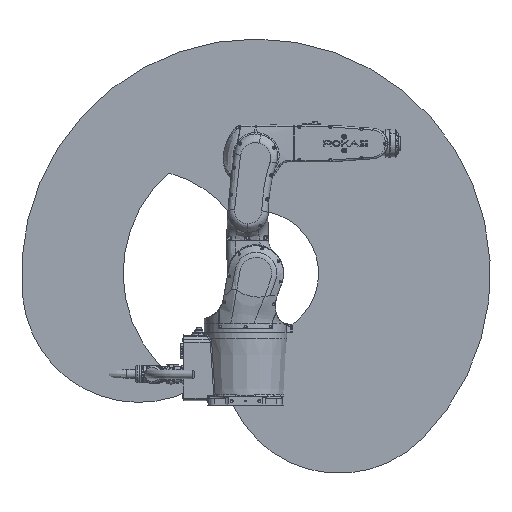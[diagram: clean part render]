
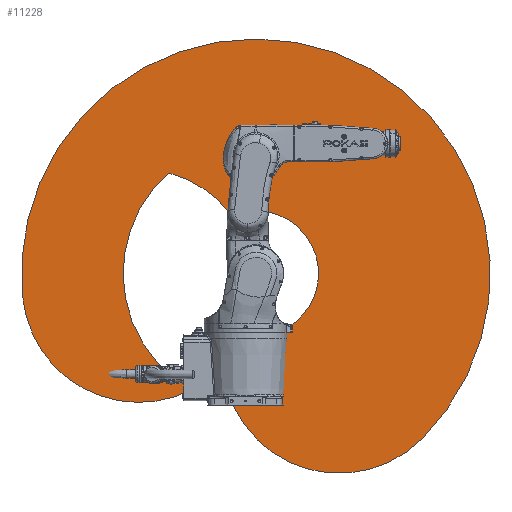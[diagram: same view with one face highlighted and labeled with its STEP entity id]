
A CAD part, front view. The second image highlights one B-rep face of the part: STEP entity #11228.
In plain terms, the highlighted planar face has unit normal (0, -1, 0).
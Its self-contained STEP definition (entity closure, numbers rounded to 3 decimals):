
#11228=ADVANCED_FACE('',(#15820),#12557,.T.);
#12557=PLANE('',#65906);
#15820=FACE_OUTER_BOUND('',#20251,.T.);
#20251=EDGE_LOOP('',(#46188,#46189,#46190,#46191,#46192,#46193));
#29332=CIRCLE('',#65900,180.697);
#29333=CIRCLE('',#65901,336.823);
#29334=CIRCLE('',#65902,676.823);
#29335=CIRCLE('',#65903,336.823);
#29336=CIRCLE('',#65904,383.538);
#29337=CIRCLE('',#65905,336.823);
#46188=ORIENTED_EDGE('',*,*,#59909,.T.);
#46189=ORIENTED_EDGE('',*,*,#59910,.T.);
#46190=ORIENTED_EDGE('',*,*,#59911,.T.);
#46191=ORIENTED_EDGE('',*,*,#59912,.T.);
#46192=ORIENTED_EDGE('',*,*,#59913,.T.);
#46193=ORIENTED_EDGE('',*,*,#59914,.T.);
#51478=VERTEX_POINT('',#149090);
#51479=VERTEX_POINT('',#149091);
#51480=VERTEX_POINT('',#149093);
#51481=VERTEX_POINT('',#149095);
#51482=VERTEX_POINT('',#149097);
#51483=VERTEX_POINT('',#149099);
#59909=EDGE_CURVE('',#51478,#51479,#29332,.T.);
#59910=EDGE_CURVE('',#51479,#51480,#29333,.T.);
#59911=EDGE_CURVE('',#51480,#51481,#29334,.T.);
#59912=EDGE_CURVE('',#51481,#51482,#29335,.T.);
#59913=EDGE_CURVE('',#51482,#51483,#29336,.T.);
#59914=EDGE_CURVE('',#51483,#51478,#29337,.T.);
#65900=AXIS2_PLACEMENT_3D('',#149089,#80890,#80891);
#65901=AXIS2_PLACEMENT_3D('',#149092,#80892,#80893);
#65902=AXIS2_PLACEMENT_3D('',#149094,#80894,#80895);
#65903=AXIS2_PLACEMENT_3D('',#149096,#80896,#80897);
#65904=AXIS2_PLACEMENT_3D('',#149098,#80898,#80899);
#65905=AXIS2_PLACEMENT_3D('',#149100,#80900,#80901);
#65906=AXIS2_PLACEMENT_3D('',#149101,#80902,#80903);
#80890=DIRECTION('',(0.,1.,0.));
#80891=DIRECTION('',(1.,0.,0.));
#80892=DIRECTION('',(0.,-1.,0.));
#80893=DIRECTION('',(1.,0.,0.));
#80894=DIRECTION('',(0.,-1.,0.));
#80895=DIRECTION('',(1.,0.,0.));
#80896=DIRECTION('',(0.,-1.,0.));
#80897=DIRECTION('',(1.,0.,0.));
#80898=DIRECTION('',(0.,1.,0.));
#80899=DIRECTION('',(1.,0.,0.));
#80900=DIRECTION('',(0.,1.,0.));
#80901=DIRECTION('',(1.,0.,0.));
#80902=DIRECTION('',(0.,-1.,0.));
#80903=DIRECTION('',(0.,0.,-1.));
#149089=CARTESIAN_POINT('',(6527.959,2056.777,0.));
#149090=CARTESIAN_POINT('',(6458.946,2056.777,166.999));
#149091=CARTESIAN_POINT('',(6441.608,2056.777,-158.729));
#149092=CARTESIAN_POINT('',(6768.375,2056.777,-240.416));
#149093=CARTESIAN_POINT('',(7006.545,2056.777,-478.586));
#149094=CARTESIAN_POINT('',(6527.959,2056.777,0.));
#149095=CARTESIAN_POINT('',(5854.844,2056.777,-70.747));
#149096=CARTESIAN_POINT('',(6189.822,2056.777,-35.54));
#149097=CARTESIAN_POINT('',(6342.55,2056.777,-335.746));
#149098=CARTESIAN_POINT('',(6527.959,2056.777,0.));
#149099=CARTESIAN_POINT('',(6276.796,2056.777,289.86));
#149100=CARTESIAN_POINT('',(6189.822,2056.777,-35.54));
#149101=CARTESIAN_POINT('',(6358.89,2056.777,-17.77));
